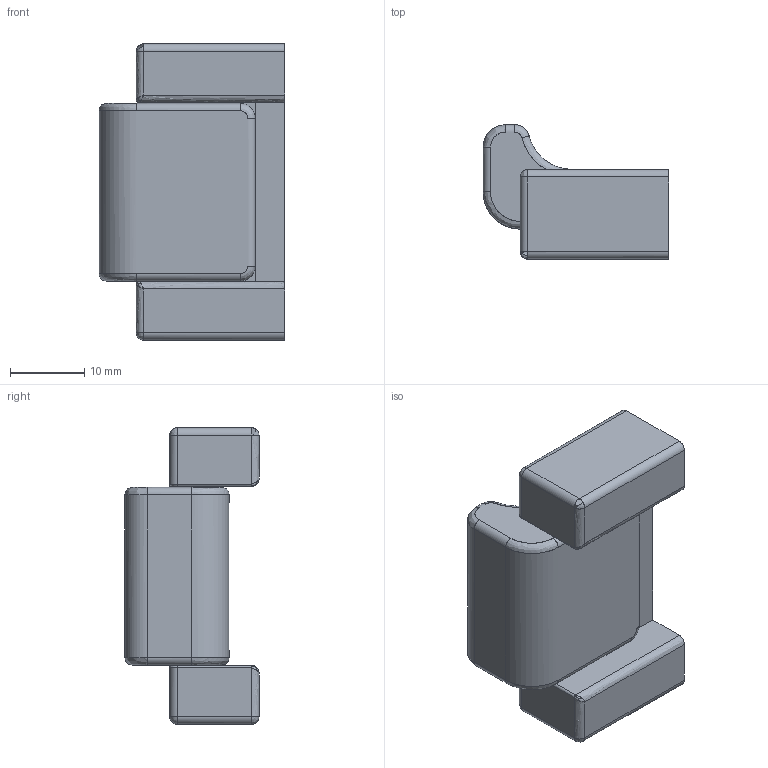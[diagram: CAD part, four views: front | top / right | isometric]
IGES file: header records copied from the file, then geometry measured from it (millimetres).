
Start section: C
Global section: file name: 8132.igs; native system: By Siemens PLM Incorporated; preprocessor: XPlus GENERIC/IGES 16.0.42; author: Author; organization: Title; date: 20231121.093633; units: millimetre
Bounding box: 25 x 18.04 x 39.9 mm (x, y, z)
Surface area: 6724.9 mm2 (no closed solid volume)
Topology: 0 solids, 0 shells, 258 faces, 1546 edges, 1541 vertices
Faces by surface type: bspline 258
